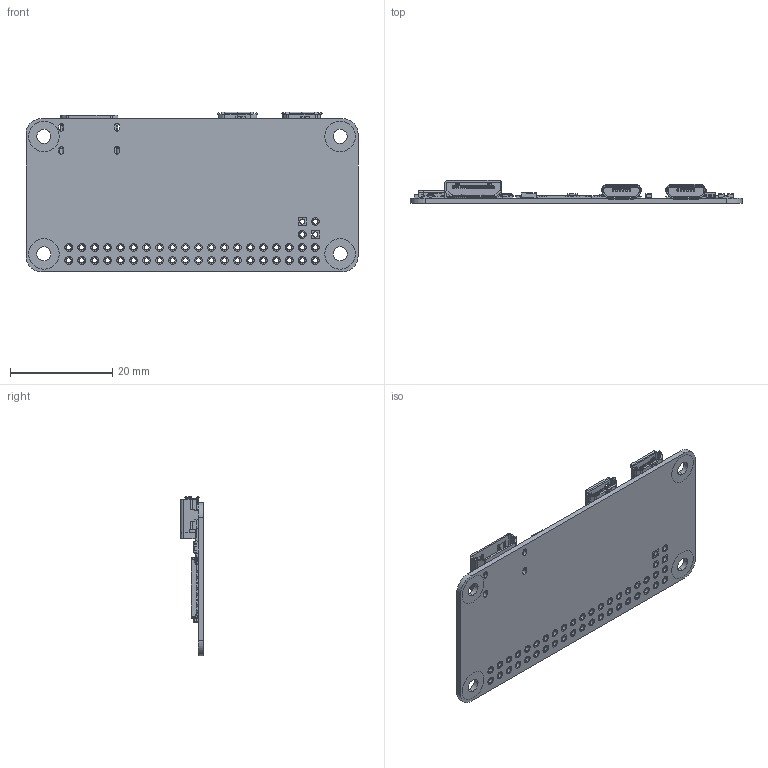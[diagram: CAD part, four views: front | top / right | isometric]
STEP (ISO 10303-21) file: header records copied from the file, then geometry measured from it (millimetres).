
FILE_DESCRIPTION (( 'STEP AP203' ), '1' );
FILE_NAME ('RapberryPiZero.STEP', '2016-07-22T09:22:53', ( '' ), ( '' ), 'SwSTEP 2.0', 'SolidWorks 2013', '' );
FILE_SCHEMA (( 'CONFIG_CONTROL_DESIGN' ));
Length unit declared in the file: millimetre
Products named in the file (16): CAP-0306; micro sd molex; Micro USB_input_female (short)-SMT; 1210 inductor; Raspberry_pizero_PCB; 6-Pin SOT; Crystal 3.4x2.4mm; 32,768 Khz Crystal; 0204- Resistor; 0204 - Capacitor; RapberryPiZero; hdmi type C; Raspberry_pizero_BCM2835 with VC4; Voltage Regulator 3x3mm 12-Pin; 0204 - Capacitor Brown; 0805- Capacitor
Assembly tree (81 placements, depth 2):
  RapberryPiZero
    Raspberry_pizero_PCB
    Micro USB_input_female (short)-SMT  x2
    0204 - Capacitor  x34
    0204- Resistor  x17
    CAP-0306  x2
    Raspberry_pizero_BCM2835 with VC4
    Crystal 3.4x2.4mm
    32,768 Khz Crystal
    0805- Capacitor  x7
    0204 - Capacitor Brown  x8
    6-Pin SOT
    micro sd molex
    hdmi type C
    Voltage Regulator 3x3mm 12-Pin
    1210 inductor  x3
Bounding box: 65 x 4.45 x 31.23 mm (x, y, z)
Volume: 2375.8 mm3; surface area: 6902.7 mm2
Topology: 137 solids, 137 shells, 6056 faces, 15943 edges, 9857 vertices
Faces by surface type: plane 2954, cylinder 2409, bspline 449, sphere 238, torus 6
Entity records: 101793 total; most frequent: CARTESIAN_POINT 19820, DIRECTION 16567, ORIENTED_EDGE 16146, EDGE_CURVE 8073, AXIS2_PLACEMENT_3D 5694, VERTEX_POINT 5313, LINE 5179, VECTOR 5179
